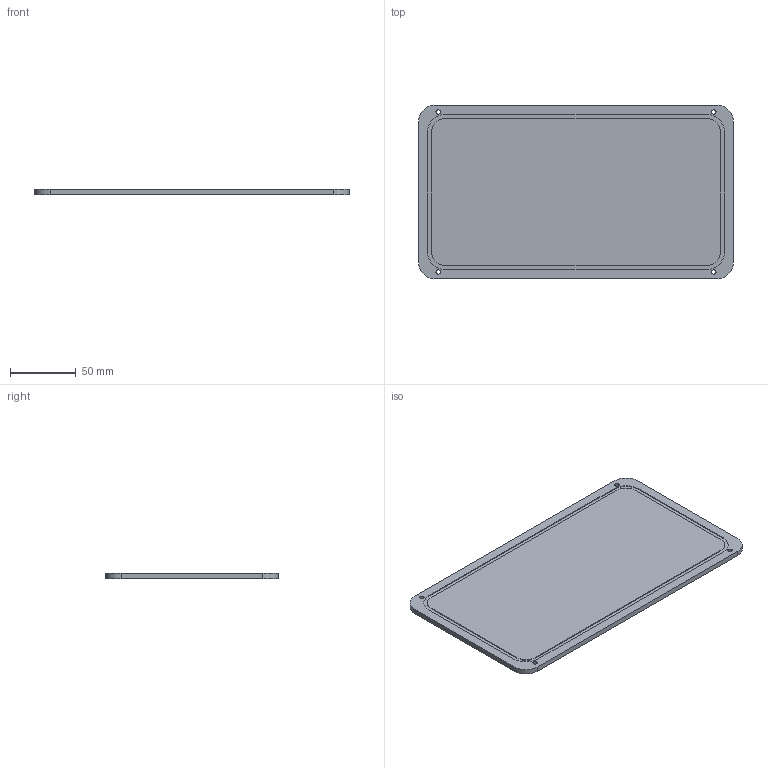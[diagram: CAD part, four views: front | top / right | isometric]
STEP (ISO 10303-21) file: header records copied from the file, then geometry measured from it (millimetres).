
FILE_DESCRIPTION(('Open CASCADE Model'),'2;1');
FILE_NAME('Open CASCADE Shape Model','2026-07-29T21:54:35',('Author'),( 'Open CASCADE'),'Open CASCADE STEP processor 7.9','Open CASCADE 7.9' ,'Unknown');
FILE_SCHEMA(('AUTOMOTIVE_DESIGN { 1 0 10303 214 1 1 1 1 }'));
Length unit declared in the file: millimetre
Products named in the file (1): split_v2_structural_service_panel
Bounding box: 240 x 132 x 4 mm (x, y, z)
Volume: 124772.4 mm3; surface area: 66944.9 mm2
Topology: 1 solids, 1 shells, 40 faces, 96 edges, 64 vertices
Faces by surface type: plane 20, cylinder 20
Full cylindrical faces by diameter (mm): 3.4 x4, 6.2 x4
Entity records: 2473 total; most frequent: CARTESIAN_POINT 453, DIRECTION 380, ORIENTED_EDGE 192, PCURVE 192, DEFINITIONAL_REPRESENTATION 192, LINE 184, VECTOR 184, EDGE_CURVE 96
